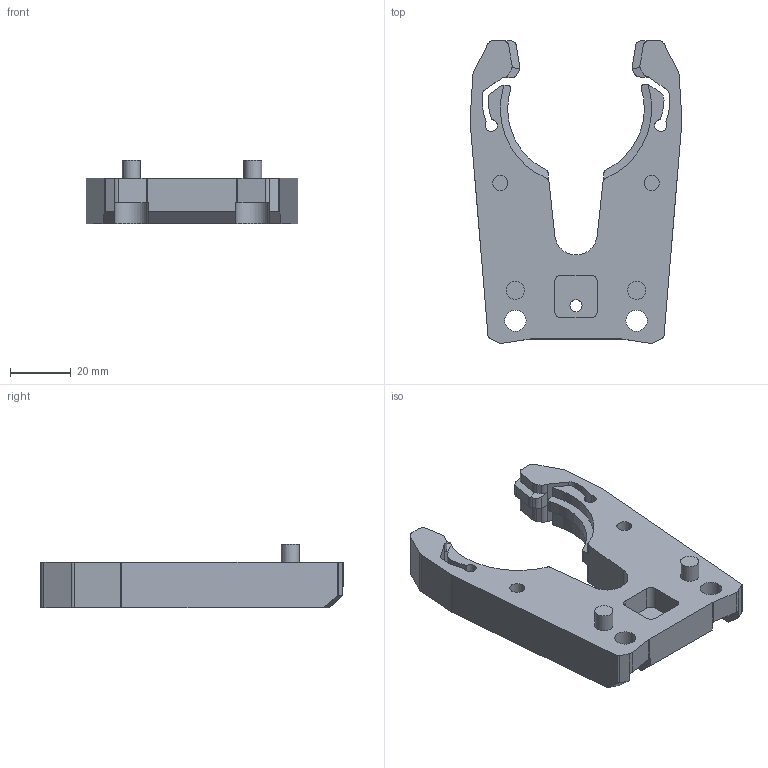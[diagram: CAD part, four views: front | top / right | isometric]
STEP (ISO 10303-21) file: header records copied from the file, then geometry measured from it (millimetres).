
FILE_DESCRIPTION(/* description */ (''),/* implementation_level */ '2;1');
FILE_NAME(/* name */ '',/* time_stamp */ '2025-09-03T14:41:02+03:00',/* author */ ('User'),/* organization */ (''),/* preprocessor_version */ 'ST-DEVELOPER v19.2',/* originating_system */ 'Autodesk Inventor 2024',/* authorisation */ '');
FILE_SCHEMA (('AUTOMOTIVE_DESIGN { 1 0 10303 214 3 1 1 }'));
Length unit declared in the file: millimetre
Products named in the file (1): Держатель цангового 
патрона ISO-30_тип_1
Bounding box: 69.99 x 99.93 x 21 mm (x, y, z)
Volume: 55718.2 mm3; surface area: 17398 mm2
Topology: 1 solids, 1 shells, 139 faces, 402 edges, 272 vertices
Faces by surface type: cylinder 76, plane 55, bspline 8
Full cylindrical faces by diameter (mm): 4 x1, 5 x4, 6 x2, 7 x2
Entity records: 5109 total; most frequent: CARTESIAN_POINT 1288, ORIENTED_EDGE 804, DIRECTION 746, EDGE_CURVE 402, VERTEX_POINT 272, AXIS2_PLACEMENT_3D 264, LINE 218, VECTOR 218
